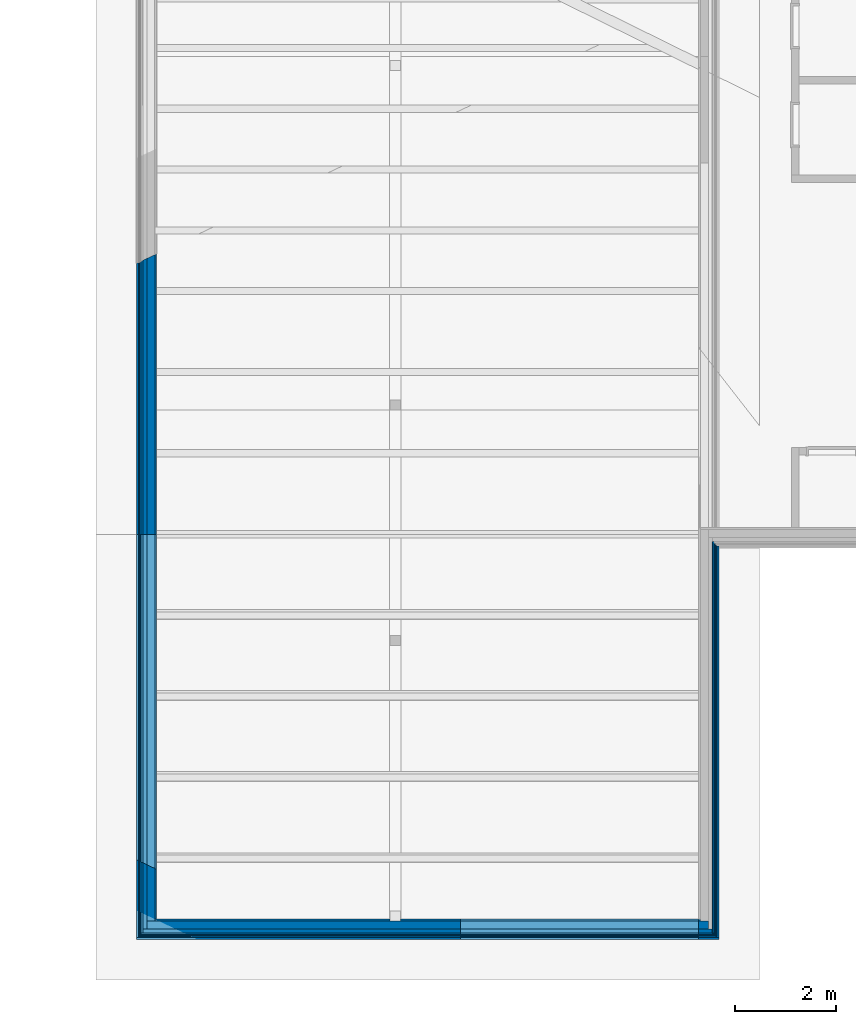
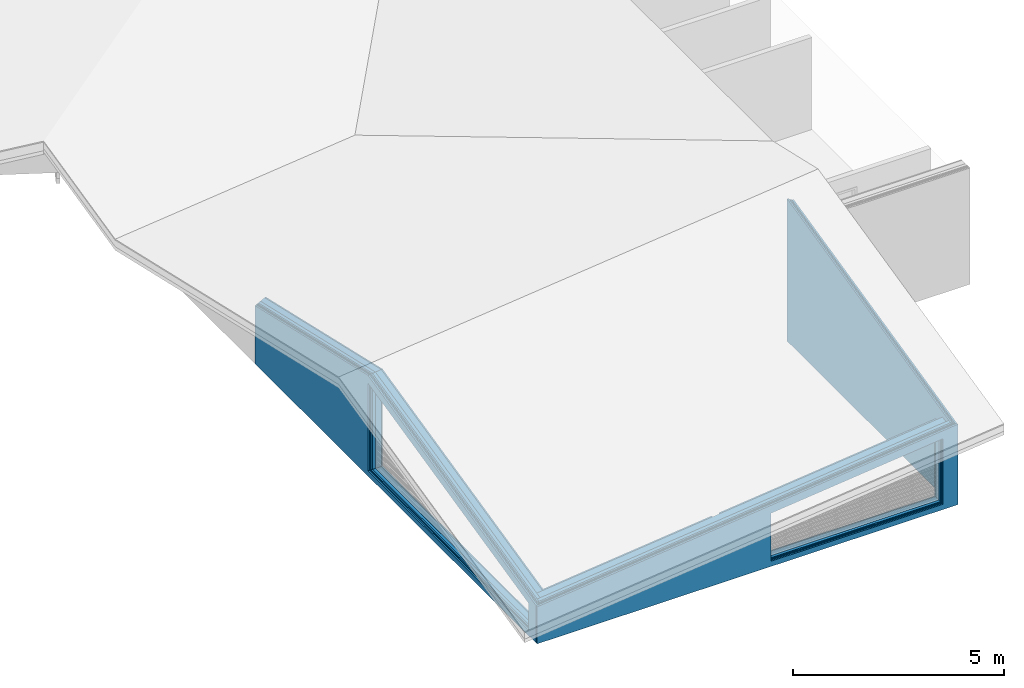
# One storey, part 3 of 14: 18 walls, 14 openings.
"""IFC4 building model written with IfcOpenShell, lengths in metres."""

from ifc_helpers import new_model, entity, si_unit, converted_unit, derived_unit, frame, frame_2d, origin, origin_with_axes, place, context, subcontext, project, spatial, polyline, rectangle, outline, extrude, clip, halfspace, bounded_halfspace, faceted_brep, material, element, save


model = new_model("IFC4")

# Units and contexts
model_context = context("Model", 3, precision=1e-05, world=origin())
body_context = subcontext(model_context, "Body", "Model", "MODEL_VIEW")
ifc_project = project(units=[si_unit("LENGTHUNIT", "METRE"), si_unit("AREAUNIT", "SQUARE_METRE"), si_unit("VOLUMEUNIT", "CUBIC_METRE"), si_unit("MASSUNIT", "GRAM", prefix="KILO"), converted_unit("PLANEANGLEUNIT", "DEGREE", entity("IfcPlaneAngleMeasure", 0.0174532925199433), si_unit("PLANEANGLEUNIT", "RADIAN"), dimensions=[0, 0, 0, 0, 0, 0, 0]), derived_unit("THERMALTRANSMITTANCEUNIT", [(si_unit("POWERUNIT", "WATT"), 1), (si_unit("THERMODYNAMICTEMPERATUREUNIT", "KELVIN"), -1), (si_unit("LENGTHUNIT", "METRE"), -2)]), derived_unit("VOLUMETRICFLOWRATEUNIT", [(si_unit("LENGTHUNIT", "METRE"), 3), (converted_unit("TIMEUNIT", "hour", entity("IfcTimeMeasure", 3600.0), si_unit("TIMEUNIT", "SECOND"), dimensions=[0, 0, 1, 0, 0, 0, 0]), -1), (si_unit("LENGTHUNIT", "METRE"), -1)])], contexts=[model_context])

# Site, building, storey
site_placement = place(None, origin())
site = spatial("IfcSite", under=ifc_project, at=site_placement, Name="Psychiatrie Neubau Wunstorf", CompositionType="ELEMENT")
building_placement = place(site_placement, origin())
building = spatial("IfcBuilding", under=site, at=building_placement, Name="Neubau H1 Sozialzentrum", CompositionType="ELEMENT")
storey_placement = place(building_placement, frame((0.0, 0.0, 4.45)))
storey = spatial("IfcBuildingStorey", under=building, at=storey_placement, Name="H1 Ebene +1", CompositionType="ELEMENT", Elevation=4.45)

# Walls
ifc_material_1 = material(Name="WA-LB")
wall_1_placement = place(storey_placement, frame((-4.89052841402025, 11.7162463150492, -0.15), z_axis=(0.0, 0.0, 1.0), x_axis=(5.40829747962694e-07, -0.999999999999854, 0.0)))
element("IfcWall", 1, at=wall_1_placement, inside=storey, material=ifc_material_1, context=body_context, shape_type="Clipping", body=[
    clip(extrude(rectangle(XDim=7.72992505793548, YDim=0.0360000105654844, at=frame_2d((3.86496252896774, 0.0180000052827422), x_axis=(1.0, 0.0))), origin_with_axes(), (0.0, 0.0, 1.0), 4.11720621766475), halfspace(frame((3.86496253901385, 0.0180000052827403, 3.22630854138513), z_axis=(-0.222900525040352, 0.105340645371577, -0.969132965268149), x_axis=(0.974555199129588, 0.0, -0.224147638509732)), True)),
])
ifc_material_2 = material(Name="WA-KL")
wall_2_placement = place(storey_placement, frame((-4.8545283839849, 11.680246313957, -0.15), z_axis=(0.0, 0.0, 1.0), x_axis=(5.40829748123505e-07, -0.999999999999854, 0.0)))
element("IfcWall", 2, at=wall_2_placement, inside=storey, material=ifc_material_2, context=body_context, shape_type="Clipping", body=[
    clip(extrude(rectangle(XDim=7.72992506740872, YDim=0.02400000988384, at=frame_2d((3.86496253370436, 0.01200000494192), x_axis=(1.0, 0.0))), origin_with_axes(), (0.0, 0.0, 1.0), 4.11153491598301), halfspace(frame((3.86496254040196, 0.0120000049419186, 3.22128941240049), z_axis=(-0.222900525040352, 0.105340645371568, -0.96913296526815), x_axis=(0.974555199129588, 1.05879118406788e-22, -0.224147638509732)), True)),
])
ifc_material_3 = material(Name="WA-TL")
wall_3_placement = place(storey_placement, frame((-4.83052836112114, 11.6562463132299, -0.15), z_axis=(0.0, 0.0, 1.0), x_axis=(5.40829748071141e-07, -0.999999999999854, 0.0)))
element("IfcWall", 3, at=wall_3_placement, inside=storey, material=ifc_material_3, context=body_context, shape_type="Clipping", body=[
    clip(extrude(rectangle(XDim=7.72992507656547, YDim=0.0240000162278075, at=frame_2d((3.86496253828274, 0.0120000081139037), x_axis=(1.0, 0.0))), origin_with_axes(), (0.0, 0.0, 1.0), 4.10862361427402), halfspace(frame((3.86496254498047, 0.0120000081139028, 3.21837810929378), z_axis=(-0.222900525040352, 0.105340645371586, -0.969132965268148), x_axis=(0.974555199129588, 1.05879118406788e-22, -0.224147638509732)), True)),
])
ifc_material_4 = material(Name="WA-HS")
wall_4_placement = place(storey_placement, frame((-4.80652833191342, 11.6322463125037, -0.15), z_axis=(0.0, 0.0, 1.0), x_axis=(5.40829747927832e-07, -0.999999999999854, 0.0)))
element("IfcWall", 4, at=wall_4_placement, inside=storey, material=ifc_material_4, context=body_context, shape_type="Clipping", body=[
    clip(extrude(rectangle(XDim=7.72992509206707, YDim=0.0420000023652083, at=frame_2d((3.86496254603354, 0.0210000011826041), x_axis=(1.0, 0.0))), origin_with_axes(), (0.0, 0.0, 1.0), 4.10766883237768), halfspace(frame((3.86496255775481, 0.0210000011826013, 3.21644506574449), z_axis=(-0.222900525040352, 0.10534064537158, -0.969132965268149), x_axis=(0.974555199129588, 0.0, -0.224147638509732)), True)),
])

# Wall, opening
ifc_material_5 = material(Name="WA-LB")
wall_5_placement = place(storey_placement, frame((-5.1305244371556, 4.26232136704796, -0.15), z_axis=(0.0, 0.0, 1.0), x_axis=(-1.0, 8.44627143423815e-17, 0.0)))
wall_5 = element("IfcWall", 5, at=wall_5_placement, inside=storey, material=ifc_material_5, context=body_context, shape_type="Clipping", body=[
    clip(clip(extrude(rectangle(XDim=5.92400238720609, YDim=0.036000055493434, at=frame_2d((2.96200119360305, 0.0180000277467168), x_axis=(1.0, -6.90643510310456e-17))), origin_with_axes(), (0.0, 0.0, 1.0), 2.37280391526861), bounded_halfspace(frame((2.96200118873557, 0.0180000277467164, 2.04670730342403), z_axis=(-0.105340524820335, -0.222900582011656, -0.969132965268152), x_axis=(0.994144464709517, -6.8659942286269e-17, -0.108059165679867)), True, origin_with_axes(), polyline([(0.0, 0.0), (5.92400238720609, 0.0), (5.92400238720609, 0.0360000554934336), (-1.94699005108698e-08, 0.036000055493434), (0.0, 0.0)]))), bounded_halfspace(frame((8.4460023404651, 0.0180000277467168, 1.45062030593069), z_axis=(-0.105340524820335, -0.22290058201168, -0.969132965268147), x_axis=(0.994144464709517, 8.39681399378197e-17, -0.108059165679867)), True, origin_with_axes(), polyline([(6.1240023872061, 0.0), (10.7680022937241, 0.0), (10.7680022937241, 0.036000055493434), (6.1240023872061, 0.0360000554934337), (6.1240023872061, 0.0)]))),
    clip(clip(extrude(rectangle(XDim=4.64399990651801, YDim=0.036000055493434, at=frame_2d((2.32199995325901, 0.0180000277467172), x_axis=(1.0, 8.44627143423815e-17))), frame((6.1240023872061, 0.0, 0.0), z_axis=(0.0, 0.0, 1.0), x_axis=(1.0, 0.0, 0.0)), (0.0, 0.0, 1.0), 2.37280391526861), bounded_halfspace(frame((2.96200118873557, 0.0180000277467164, 2.04670730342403), z_axis=(-0.105340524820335, -0.222900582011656, -0.969132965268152), x_axis=(0.994144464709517, -6.8659942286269e-17, -0.108059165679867)), True, origin_with_axes(), polyline([(0.0, 0.0), (5.92400238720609, 0.0), (5.92400238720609, 0.0360000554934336), (-1.94699005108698e-08, 0.036000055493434), (0.0, 0.0)]))), bounded_halfspace(frame((8.4460023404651, 0.0180000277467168, 1.45062030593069), z_axis=(-0.105340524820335, -0.22290058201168, -0.969132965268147), x_axis=(0.994144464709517, 8.39681399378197e-17, -0.108059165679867)), True, origin_with_axes(), polyline([(6.1240023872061, 0.0), (10.7680022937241, 0.0), (10.7680022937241, 0.036000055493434), (6.1240023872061, 0.0360000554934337), (6.1240023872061, 0.0)]))),
])
opening_1_placement = place(wall_5_placement, frame((4.7380020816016, 0.036000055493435, 0.15)))
element("IfcOpeningElement", 6, at=opening_1_placement, cuts=wall_5, Name="Fensteröffnung", ObjectType="Opening", context=body_context, shape_type="Brep", body=[
    faceted_brep([(0.0, -0.036000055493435, 0.0), (0.0, 0.0, 0.0), (-4.702002, 0.0, 0.0), (-4.702002, -0.0360000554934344, 0.0), (0.0, 0.0, 1.46939729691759), (0.0, -0.036000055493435, 1.47767730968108), (-4.702002, -0.0360000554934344, 1.98876441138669), (-4.702002, 0.0, 1.9804843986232)], [[[0, 1, 2, 3]], [[4, 5, 6, 7]], [[1, 0, 5, 4]], [[2, 1, 4, 7]], [[3, 2, 7, 6]], [[0, 3, 6, 5]]], orient=[[False], [False], [False], [False], [False], [False]]),
])

ifc_material_6 = material(Name="WA-HD")
wall_6_placement = place(storey_placement, frame((-4.97052438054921, 4.22632131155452, -0.15), z_axis=(0.0, 0.0, 1.0), x_axis=(-1.0, 8.20251177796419e-17, 0.0)))
wall_6 = element("IfcWall", 7, at=wall_6_placement, inside=storey, material=ifc_material_6, context=body_context, shape_type="Clipping", body=[
    clip(extrude(rectangle(XDim=11.088002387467, YDim=0.160000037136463, at=frame_2d((5.54400119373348, 0.0800000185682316), x_axis=(1.0, 0.0))), origin_with_axes(), (0.0, 0.0, 1.0), 2.38191521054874), halfspace(frame((5.54400117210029, 0.0800000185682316, 1.76090646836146), z_axis=(-0.105340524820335, -0.222900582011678, -0.969132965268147), x_axis=(0.994144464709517, 1.23259516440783e-32, -0.108059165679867)), True)),
])
opening_2_placement = place(wall_6_placement, frame((4.89800213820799, 0.160000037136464, 0.15)))
element("IfcOpeningElement", 8, at=opening_2_placement, cuts=wall_6, Name="Fensteröffnung", ObjectType="Opening", context=body_context, shape_type="Brep", body=[
    faceted_brep([(0.0, -0.160000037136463, 0.0), (0.0, 0.0, 0.0), (-4.702002, 0.0, 0.0), (-4.702002, -0.160000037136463, 0.0), (0.0, 0.0, 1.4325972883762), (0.0, -0.160000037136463, 1.46939729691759), (-4.702002, -0.160000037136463, 1.9804843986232), (-4.702002, 0.0, 1.94368439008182)], [[[0, 1, 2, 3]], [[4, 5, 6, 7]], [[1, 0, 5, 4]], [[2, 1, 4, 7]], [[3, 2, 7, 6]], [[0, 3, 6, 5]]], orient=[[False], [False], [False], [False], [False], [False]]),
])

ifc_material_7 = material(Name="WA-DL")
wall_7_placement = place(storey_placement, frame((-4.89052427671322, 4.06632127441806, -0.15), z_axis=(0.0, 0.0, 1.0), x_axis=(-1.0, 8.08583302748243e-17, 0.0)))
wall_7 = element("IfcWall", 9, at=wall_7_placement, inside=storey, material=ifc_material_7, context=body_context, shape_type="Clipping", body=[
    clip(extrude(rectangle(XDim=11.2480025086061, YDim=0.0800000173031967, at=frame_2d((5.62400125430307, 0.0400000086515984), x_axis=(1.0, 0.0))), origin_with_axes(), (0.0, 0.0, 1.0), 2.35381086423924), halfspace(frame((5.62400124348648, 0.0400000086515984, 1.73330646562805), z_axis=(-0.105340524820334, -0.222900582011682, -0.969132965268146), x_axis=(0.994144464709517, 0.0, -0.108059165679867)), True)),
])
opening_3_placement = place(wall_7_placement, frame((4.97800224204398, 0.0800000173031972, 0.15)))
element("IfcOpeningElement", 10, at=opening_3_placement, cuts=wall_7, Name="Fensteröffnung", ObjectType="Opening", context=body_context, shape_type="Brep", body=[
    faceted_brep([(0.0, -0.0800000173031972, 0.0), (0.0, 0.0, 0.0), (-4.702002, 0.0, 0.0), (-4.702002, -0.0800000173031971, 0.0), (0.0, 0.0, 1.41419728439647), (0.0, -0.0800000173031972, 1.4325972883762), (-4.702002, -0.0800000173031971, 1.94368439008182), (-4.702002, 0.0, 1.92528438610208)], [[[0, 1, 2, 3]], [[4, 5, 6, 7]], [[1, 0, 5, 4]], [[2, 1, 4, 7]], [[3, 2, 7, 6]], [[0, 3, 6, 5]]], orient=[[False], [False], [False], [False], [False], [False]]),
])

ifc_material_8 = material(Name="WA-LB")
wall_8_placement = place(storey_placement, frame((-4.85452422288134, 3.98632125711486, -0.15), z_axis=(0.0, 0.0, 1.0), x_axis=(-1.0, 8.03440366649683e-17, 0.0)))
wall_8 = element("IfcWall", 11, at=wall_8_placement, inside=storey, material=ifc_material_8, context=body_context, shape_type="Clipping", body=[
    clip(extrude(rectangle(XDim=11.3200025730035, YDim=0.036000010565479, at=frame_2d((5.66000128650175, 0.0180000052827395), x_axis=(1.0, 0.0))), origin_with_axes(), (0.0, 0.0, 1.0), 2.33932390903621), halfspace(frame((5.66000128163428, 0.0180000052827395, 1.71996646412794), z_axis=(-0.105340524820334, -0.222900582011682, -0.969132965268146), x_axis=(0.994144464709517, 0.0, -0.108059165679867)), True)),
])
opening_4_placement = place(wall_8_placement, frame((5.01400229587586, 0.0360000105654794, 0.15)))
element("IfcOpeningElement", 12, at=opening_4_placement, cuts=wall_8, Name="Fensteröffnung", ObjectType="Opening", context=body_context, shape_type="Brep", body=[
    faceted_brep([(0.0, -0.0360000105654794, 0.0), (0.0, 0.0, 0.0), (-4.702002, 0.0, 0.0), (-4.702002, -0.0360000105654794, 0.0), (0.0, 0.0, 1.40591728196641), (0.0, -0.0360000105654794, 1.41419728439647), (-4.702002, -0.0360000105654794, 1.92528438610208), (-4.702002, 0.0, 1.91700438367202)], [[[0, 1, 2, 3]], [[4, 5, 6, 7]], [[1, 0, 5, 4]], [[2, 1, 4, 7]], [[3, 2, 7, 6]], [[0, 3, 6, 5]]], orient=[[False], [False], [False], [False], [False], [False]]),
])

ifc_material_9 = material(Name="WA-KL")
wall_9_placement = place(storey_placement, frame((-4.83052419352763, 3.95032124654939, -0.15), z_axis=(0.0, 0.0, 1.0), x_axis=(-1.0, 8.00047935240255e-17, 0.0)))
wall_9 = element("IfcWall", 13, at=wall_9_placement, inside=storey, material=ifc_material_9, context=body_context, shape_type="Clipping", body=[
    clip(extrude(rectangle(XDim=11.3680026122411, YDim=0.0240000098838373, at=frame_2d((5.68400130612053, 0.0120000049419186), x_axis=(1.0, 0.0))), origin_with_axes(), (0.0, 0.0, 1.0), 2.33365260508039), halfspace(frame((5.68400130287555, 0.0120000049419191, 1.71306646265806), z_axis=(-0.105340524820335, -0.22290058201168, -0.969132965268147), x_axis=(0.994144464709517, 0.0, -0.108059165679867)), True)),
])
opening_5_placement = place(wall_9_placement, frame((5.03800232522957, 0.0240000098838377, 0.15)))
element("IfcOpeningElement", 14, at=opening_5_placement, cuts=wall_9, Name="Fensteröffnung", ObjectType="Opening", context=body_context, shape_type="Brep", body=[
    faceted_brep([(0.0, -0.0240000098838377, 0.0), (0.0, 0.0, 0.0), (-4.702002, 0.0, 0.0), (-4.702002, -0.0240000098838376, 0.0), (0.0, 0.0, 1.40039727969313), (0.0, -0.0240000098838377, 1.40591728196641), (-4.702002, -0.0240000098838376, 1.91700438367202), (-4.702002, 0.0, 1.91148438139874)], [[[0, 1, 2, 3]], [[4, 5, 6, 7]], [[1, 0, 5, 4]], [[2, 1, 4, 7]], [[3, 2, 7, 6]], [[0, 3, 6, 5]]], orient=[[False], [False], [False], [False], [False], [False]]),
])

ifc_material_10 = material(Name="WA-TL")
wall_10_placement = place(storey_placement, frame((-4.8065241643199, 3.92632123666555, -0.15), z_axis=(0.0, 0.0, 1.0), x_axis=(-1.0, 7.9668403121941e-17, 0.0)))
wall_10 = element("IfcWall", 15, at=wall_10_placement, inside=storey, material=ifc_material_10, context=body_context, shape_type="Clipping", body=[
    clip(extrude(rectangle(XDim=11.4160026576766, YDim=0.0240000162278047, at=frame_2d((5.70800132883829, 0.0120000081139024), x_axis=(1.0, 0.0))), origin_with_axes(), (0.0, 0.0, 1.0), 2.33074130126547), halfspace(frame((5.70800132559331, 0.0120000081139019, 1.70754646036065), z_axis=(-0.105340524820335, -0.222900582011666, -0.96913296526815), x_axis=(0.994144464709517, 0.0, -0.108059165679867)), True)),
])
opening_6_placement = place(wall_10_placement, frame((5.0620023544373, 0.0240000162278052, 0.15)))
element("IfcOpeningElement", 16, at=opening_6_placement, cuts=wall_10, Name="Fensteröffnung", ObjectType="Opening", context=body_context, shape_type="Brep", body=[
    faceted_brep([(0.0, -0.0240000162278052, 0.0), (0.0, 0.0, 0.0), (-4.702002, 0.0, 0.0), (-4.702002, -0.0240000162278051, 0.0), (0.0, 0.0, 1.39487727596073), (0.0, -0.0240000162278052, 1.40039727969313), (-4.702002, -0.0240000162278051, 1.91148438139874), (-4.702002, 0.0, 1.90596437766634)], [[[0, 1, 2, 3]], [[4, 5, 6, 7]], [[1, 0, 5, 4]], [[2, 1, 4, 7]], [[3, 2, 7, 6]], [[0, 3, 6, 5]]], orient=[[False], [False], [False], [False], [False], [False]]),
])

ifc_material_11 = material(Name="WA-HS")
wall_11_placement = place(storey_placement, frame((-4.76452414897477, 3.90232122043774, -0.15), z_axis=(0.0, 0.0, 1.0), x_axis=(-1.0, 7.91002339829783e-17, 0.0)))
wall_11 = element("IfcWall", 17, at=wall_11_placement, inside=storey, material=ifc_material_11, context=body_context, shape_type="Clipping", body=[
    clip(extrude(rectangle(XDim=11.4980026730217, YDim=0.0420000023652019, at=frame_2d((5.74900133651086, 0.021000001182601), x_axis=(1.0, 0.0))), origin_with_axes(), (0.0, 0.0, 1.0), 2.32978651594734), halfspace(frame((5.74900133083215, 0.021000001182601, 1.70006515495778), z_axis=(-0.105340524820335, -0.222900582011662, -0.969132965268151), x_axis=(0.994144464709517, 0.0, -0.108059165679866)), True)),
])
opening_7_placement = place(wall_11_placement, frame((5.10400236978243, 0.0420000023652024, 0.15)))
element("IfcOpeningElement", 18, at=opening_7_placement, cuts=wall_11, Name="Fensteröffnung", ObjectType="Opening", context=body_context, shape_type="Brep", body=[
    faceted_brep([(0.0, -0.0420000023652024, 0.0), (0.0, 0.0, 0.0), (-4.702002, 0.0, 0.0), (-4.702002, -0.0420000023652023, 0.0), (0.0, 0.0, 1.38521727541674), (0.0, -0.0420000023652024, 1.39487727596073), (-4.702002, -0.0420000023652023, 1.90596437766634), (-4.702002, 0.0, 1.89630437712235)], [[[0, 1, 2, 3]], [[4, 5, 6, 7]], [[1, 0, 5, 4]], [[2, 1, 4, 7]], [[3, 2, 7, 6]], [[0, 3, 6, 5]]], orient=[[False], [False], [False], [False], [False], [False]]),
])

ifc_material_12 = material(Name="WA-LB")
wall_12_placement = place(storey_placement, frame((-15.8625266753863, 4.26232136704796, -0.15), z_axis=(0.0, 0.0, 1.0), x_axis=(-4.1542695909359e-16, 1.0, 0.0)))
wall_12 = element("IfcWall", 19, at=wall_12_placement, inside=storey, material=ifc_material_12, context=body_context, shape_type="Clipping", body=[
    clip(clip(extrude(outline(polyline([(0.0, -0.036000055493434), (13.1358066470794, -0.036000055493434), (13.1187933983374, 0.0), (0.0, 0.0), (0.0, -0.036000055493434)])), frame((0.0, 0.036000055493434, 0.0), z_axis=(0.0, 0.0, 1.0), x_axis=(1.0, 0.0, 0.0)), (0.0, 0.0, 1.0), 2.95382209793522), bounded_halfspace(frame((3.79900000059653, 0.0180000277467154, 2.07809557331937), z_axis=(0.222900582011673, -0.105340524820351, -0.969132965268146), x_axis=(0.9745551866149, 6.17677606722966e-17, 0.224147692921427)), True, origin_with_axes(), polyline([(0.0, 0.0), (7.59800000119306, 0.0), (7.59800000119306, 0.0360000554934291), (0.0, 0.036000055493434), (0.0, 0.0)]))), bounded_halfspace(frame((10.3626500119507, 0.0180000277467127, 2.3159960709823), z_axis=(-0.222900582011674, -0.105340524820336, -0.969132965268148), x_axis=(0.9745551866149, -8.47468096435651e-17, -0.224147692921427)), True, origin_with_axes(), polyline([(7.59800000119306, 0.0), (13.1358066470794, 0.0), (13.1187933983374, 0.0360000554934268), (7.59800000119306, 0.0360000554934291), (7.59800000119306, 0.0)]))),
])
opening_8_placement = place(wall_12_placement, frame((0.000727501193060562, 0.036000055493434, 0.15)))
element("IfcOpeningElement", 20, at=opening_8_placement, cuts=wall_12, Name="Fensteröffnung", ObjectType="Opening", context=body_context, shape_type="Brep", body=[
    faceted_brep([(0.0, 0.0, 0.0), (0.0, -0.036000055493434, 0.0), (7.5972725, -0.0360000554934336, 0.0), (7.5972725, 0.0, 0.0), (0.0, -0.036000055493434, 0.826322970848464), (0.0, 0.0, 0.822409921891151), (7.5972725, 0.0, 2.56978259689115), (7.5972725, -0.0360000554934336, 2.57369564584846)], [[[0, 1, 2, 3]], [[4, 5, 6, 7]], [[1, 0, 5, 4]], [[2, 1, 4, 7]], [[3, 2, 7, 6]], [[0, 3, 6, 5]]], orient=[[False], [False], [False], [False], [False], [False]]),
])

ifc_material_13 = material(Name="WA-HD")
wall_13_placement = place(storey_placement, frame((-15.8985267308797, 4.22632131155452, -0.15), z_axis=(0.0, 0.0, 1.0), x_axis=(1.38275785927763e-16, 1.0, 0.0)))
wall_13 = element("IfcWall", 21, at=wall_13_placement, inside=storey, material=ifc_material_13, context=body_context, shape_type="Clipping", body=[
    clip(clip(extrude(outline(polyline([(0.0, -0.160000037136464), (13.1547934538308, -0.160000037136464), (13.0791791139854, 0.0), (0.0, 0.0), (0.0, -0.160000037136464)])), frame((0.0, 0.160000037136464, 0.0), z_axis=(0.0, 0.0, 1.0), x_axis=(1.0, 0.0, 0.0)), (0.0, 0.0, 1.0), 2.94990904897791), bounded_halfspace(frame((3.81700002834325, 0.0800000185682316, 2.06330338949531), z_axis=(0.222900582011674, -0.105340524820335, -0.969132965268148), x_axis=(0.9745551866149, -9.74545025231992e-17, 0.224147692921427)), True, origin_with_axes(), polyline([(0.0, 0.0), (7.63400005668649, 0.0), (7.63400005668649, 0.160000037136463), (0.0, 0.160000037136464), (0.0, 0.0)]))), bounded_halfspace(frame((10.3754931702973, 0.0800000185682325, 2.31066997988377), z_axis=(-0.222900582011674, -0.105340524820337, -0.969132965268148), x_axis=(0.9745551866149, 1.34757384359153e-16, -0.224147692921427)), True, origin_with_axes(), polyline([(7.63400005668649, 0.0), (13.1547934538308, 0.0), (13.0791791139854, 0.160000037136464), (7.63400005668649, 0.160000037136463), (7.63400005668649, 0.0)]))),
])
opening_9_placement = place(wall_13_placement, frame((0.0367275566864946, 0.160000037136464, 0.15)))
element("IfcOpeningElement", 22, at=opening_9_placement, cuts=wall_13, Name="Fensteröffnung", ObjectType="Opening", context=body_context, shape_type="Brep", body=[
    faceted_brep([(0.0, 0.0, 0.0), (0.0, -0.160000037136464, 0.0), (7.5972725, -0.160000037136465, 0.0), (7.5972725, 0.0, 0.0), (0.0, -0.160000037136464, 0.822409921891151), (0.0, 0.0, 0.805018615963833), (7.5972725, 0.0, 2.55239129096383), (7.5972725, -0.160000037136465, 2.56978259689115)], [[[0, 1, 2, 3]], [[4, 5, 6, 7]], [[1, 0, 5, 4]], [[2, 1, 4, 7]], [[3, 2, 7, 6]], [[0, 3, 6, 5]]], orient=[[False], [False], [False], [False], [False], [False]]),
])

ifc_material_14 = material(Name="WA-DL")
wall_14_placement = place(storey_placement, frame((-16.0585267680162, 4.06632127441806, -0.15), z_axis=(0.0, 0.0, 1.0), x_axis=(1.37394424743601e-16, 1.0, 0.0)))
wall_14 = element("IfcWall", 23, at=wall_14_placement, inside=storey, material=ifc_material_14, context=body_context, shape_type="Clipping", body=[
    clip(clip(extrude(outline(polyline([(0.0, -0.0800000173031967), (13.2391791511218, -0.0800000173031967), (13.2013719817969, 0.0), (0.0, 0.0), (0.0, -0.0800000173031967)])), frame((0.0, 0.0800000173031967, 0.0), z_axis=(0.0, 0.0, 1.0), x_axis=(1.0, 0.0, 0.0)), (0.0, 0.0, 1.0), 2.93251774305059), bounded_halfspace(frame((3.89700004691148, 0.040000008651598, 2.03185990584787), z_axis=(0.222900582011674, -0.10534052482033, -0.969132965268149), x_axis=(0.9745551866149, -9.35464489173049e-17, 0.224147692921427)), True, origin_with_axes(), polyline([(0.0, 0.0), (7.79400009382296, 0.0), (7.79400009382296, 0.080000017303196), (0.0, 0.0800000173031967), (0.0, 0.0)]))), bounded_halfspace(frame((10.5071378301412, 0.0400000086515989, 2.30414823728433), z_axis=(-0.222900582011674, -0.105340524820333, -0.969132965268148), x_axis=(0.9745551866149, 1.33898449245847e-16, -0.224147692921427)), True, origin_with_axes(), polyline([(7.79400009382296, 0.0), (13.2391791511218, 0.0), (13.2013719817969, 0.0800000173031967), (7.79400009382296, 0.080000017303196), (7.79400009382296, 0.0)]))),
])
opening_10_placement = place(wall_14_placement, frame((0.196727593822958, 0.0800000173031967, 0.15)))
element("IfcOpeningElement", 24, at=opening_10_placement, cuts=wall_14, Name="Fensteröffnung", ObjectType="Opening", context=body_context, shape_type="Brep", body=[
    faceted_brep([(0.0, 0.0, 0.0), (0.0, -0.0800000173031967, 0.0), (7.5972725, -0.0800000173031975, 0.0), (7.5972725, 0.0, 0.0), (0.0, -0.0800000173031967, 0.805018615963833), (0.0, 0.0, 0.796322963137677), (7.5972725, 0.0, 2.54369563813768), (7.5972725, -0.0800000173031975, 2.55239129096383)], [[[0, 1, 2, 3]], [[4, 5, 6, 7]], [[1, 0, 5, 4]], [[2, 1, 4, 7]], [[3, 2, 7, 6]], [[0, 3, 6, 5]]], orient=[[False], [False], [False], [False], [False], [False]]),
])

ifc_material_15 = material(Name="WA-LB")
wall_15_placement = place(storey_placement, frame((-16.1385267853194, 3.98632125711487, -0.15), z_axis=(0.0, 0.0, 1.0), x_axis=(1.36957944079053e-16, 1.0, 0.0)))
wall_15 = element("IfcWall", 25, at=wall_15_placement, inside=storey, material=ifc_material_15, context=body_context, shape_type="Clipping", body=[
    clip(clip(extrude(outline(polyline([(0.0, -0.0360000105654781), (13.2813719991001, -0.0360000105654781), (13.2643587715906, 0.0), (0.0, 0.0), (0.0, -0.0360000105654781)])), frame((0.0, 0.0360000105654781, 0.0), z_axis=(0.0, 0.0, 1.0), x_axis=(1.0, 0.0, 0.0)), (0.0, 0.0, 1.0), 2.92382209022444), bounded_halfspace(frame((3.93700005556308, 0.0180000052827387, 2.01635555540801), z_axis=(0.222900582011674, -0.105340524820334, -0.969132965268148), x_axis=(0.9745551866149, -3.16795031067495e-16, 0.224147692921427)), True, origin_with_axes(), polyline([(0.0, 0.0), (7.87400011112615, 0.0), (7.87400011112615, 0.0360000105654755), (0.0, 0.0360000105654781), (0.0, 0.0)]))), bounded_halfspace(frame((10.5734327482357, 0.0180000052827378, 2.30099606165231), z_axis=(-0.222900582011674, -0.105340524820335, -0.969132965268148), x_axis=(0.9745551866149, 1.33473074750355e-16, -0.224147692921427)), True, origin_with_axes(), polyline([(7.87400011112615, 0.0), (13.2813719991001, 0.0), (13.2643587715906, 0.0360000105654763), (7.87400011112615, 0.0360000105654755), (7.87400011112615, 0.0)]))),
])
opening_11_placement = place(wall_15_placement, frame((0.276727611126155, 0.0360000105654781, 0.15)))
element("IfcOpeningElement", 26, at=opening_11_placement, cuts=wall_15, Name="Fensteröffnung", ObjectType="Opening", context=body_context, shape_type="Brep", body=[
    faceted_brep([(0.0, 0.0, 0.0), (0.0, -0.0360000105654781, 0.0), (7.5972725, -0.0360000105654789, 0.0), (7.5972725, 0.0, 0.0), (0.0, -0.0360000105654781, 0.796322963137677), (0.0, 0.0, 0.792409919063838), (7.5972725, 0.0, 2.53978259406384), (7.5972725, -0.0360000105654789, 2.54369563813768)], [[[0, 1, 2, 3]], [[4, 5, 6, 7]], [[1, 0, 5, 4]], [[2, 1, 4, 7]], [[3, 2, 7, 6]], [[0, 3, 6, 5]]], orient=[[False], [False], [False], [False], [False], [False]]),
])

ifc_material_16 = material(Name="WA-KL")
wall_16_placement = place(storey_placement, frame((-16.1745267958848, 3.95032124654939, -0.15), z_axis=(0.0, 0.0, 1.0), x_axis=(1.36762431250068e-16, 1.0, 0.0)))
wall_16 = element("IfcWall", 27, at=wall_16_placement, inside=storey, material=ifc_material_16, context=body_context, shape_type="Clipping", body=[
    clip(clip(extrude(outline(polyline([(0.0, -0.0240000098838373), (13.300358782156, -0.0240000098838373), (13.2890166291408, 0.0), (0.0, 0.0), (0.0, -0.0240000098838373)])), frame((0.0, 0.0240000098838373, 0.0), z_axis=(0.0, 0.0, 1.0), x_axis=(1.0, 0.0, 0.0)), (0.0, 0.0, 1.0), 2.9199090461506), bounded_halfspace(frame((3.95500006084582, 0.0120000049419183, 2.00895468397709), z_axis=(0.222900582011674, -0.105340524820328, -0.969132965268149), x_axis=(0.9745551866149, -9.0826885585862e-17, 0.224147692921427)), True, origin_with_axes(), polyline([(0.0, 0.0), (7.91000012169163, 0.0), (7.91000012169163, 0.0240000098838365), (0.0, 0.0240000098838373), (0.0, 0.0)]))), bounded_halfspace(frame((10.60234391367, 0.0120000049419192, 2.2993656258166), z_axis=(-0.222900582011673, -0.105340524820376, -0.969132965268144), x_axis=(0.9745551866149, 1.33282536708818e-16, -0.224147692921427)), True, origin_with_axes(), polyline([(7.91000012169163, 0.0), (13.300358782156, 0.0), (13.2890166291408, 0.0240000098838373), (7.91000012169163, 0.0240000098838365), (7.91000012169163, 0.0)]))),
])
opening_12_placement = place(wall_16_placement, frame((0.312727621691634, 0.0240000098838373, 0.15)))
element("IfcOpeningElement", 28, at=opening_12_placement, cuts=wall_16, Name="Fensteröffnung", ObjectType="Opening", context=body_context, shape_type="Brep", body=[
    faceted_brep([(0.0, 0.0, 0.0), (0.0, -0.0240000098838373, 0.0), (7.5972725, -0.024000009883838, 0.0), (7.5972725, 0.0, 0.0), (0.0, -0.0240000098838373, 0.792409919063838), (0.0, 0.0, 0.789801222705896), (7.5972725, 0.0, 2.53717389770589), (7.5972725, -0.024000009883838, 2.53978259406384)], [[[0, 1, 2, 3]], [[4, 5, 6, 7]], [[1, 0, 5, 4]], [[2, 1, 4, 7]], [[3, 2, 7, 6]], [[0, 3, 6, 5]]], orient=[[False], [False], [False], [False], [False], [False]]),
])

ifc_material_17 = material(Name="WA-TL")
wall_17_placement = place(storey_placement, frame((-16.1985268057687, 3.92632123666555, -0.15), z_axis=(0.0, 0.0, 1.0), x_axis=(1.36632399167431e-16, 1.0, 0.0)))
wall_17 = element("IfcWall", 29, at=wall_17_placement, inside=storey, material=ifc_material_17, context=body_context, shape_type="Clipping", body=[
    clip(clip(extrude(outline(polyline([(0.0, -0.0240000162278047), (13.3130166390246, -0.0240000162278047), (13.3016744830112, 0.0), (0.0, 0.0), (0.0, -0.0240000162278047)])), frame((0.0, 0.0240000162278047, 0.0), z_axis=(0.0, 0.0, 1.0), x_axis=(1.0, 0.0, 0.0)), (0.0, 0.0, 1.0), 2.91730034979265), bounded_halfspace(frame((3.96700006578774, 0.0120000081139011, 2.00358598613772), z_axis=(0.222900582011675, -0.105340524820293, -0.969132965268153), x_axis=(0.9745551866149, -3.13707188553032e-16, 0.224147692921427)), True, origin_with_axes(), polyline([(0.0, 0.0), (7.93400013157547, 0.0), (7.93400013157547, 0.0240000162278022), (0.0, 0.0240000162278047), (0.0, 0.0)]))), bounded_halfspace(frame((10.6206728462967, 0.0120000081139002, 2.29806127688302), z_axis=(-0.222900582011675, -0.105340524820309, -0.969132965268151), x_axis=(0.9745551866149, 1.33155813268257e-16, -0.224147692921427)), True, origin_with_axes(), polyline([(7.93400013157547, 0.0), (13.3130166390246, 0.0), (13.3016744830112, 0.0240000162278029), (7.93400013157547, 0.0240000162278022), (7.93400013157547, 0.0)]))),
])
opening_13_placement = place(wall_17_placement, frame((0.336727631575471, 0.0240000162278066, 0.15)))
element("IfcOpeningElement", 30, at=opening_13_placement, cuts=wall_17, Name="Fensteröffnung", ObjectType="Opening", context=body_context, shape_type="Brep", body=[
    faceted_brep([(0.0, 0.0, 0.0), (0.0, -0.0240000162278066, 0.0), (7.5972725, -0.0240000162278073, 0.0), (7.5972725, 0.0, 0.0), (0.0, -0.0240000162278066, 0.789801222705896), (0.0, 0.0, 0.787192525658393), (7.5972725, 0.0, 2.53456520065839), (7.5972725, -0.0240000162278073, 2.53717389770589)], [[[0, 1, 2, 3]], [[4, 5, 6, 7]], [[1, 0, 5, 4]], [[2, 1, 4, 7]], [[3, 2, 7, 6]], [[0, 3, 6, 5]]], orient=[[False], [False], [False], [False], [False], [False]]),
])

ifc_material_18 = material(Name="WA-HS")
wall_18_placement = place(storey_placement, frame((-16.2225268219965, 3.90232122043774, -0.15), z_axis=(0.0, 0.0, 1.0), x_axis=(1.36502614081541e-16, 1.0, 0.0)))
wall_18 = element("IfcWall", 31, at=wall_18_placement, inside=storey, material=ifc_material_18, context=body_context, shape_type="Clipping", body=[
    clip(clip(extrude(outline(polyline([(0.0, -0.04), (13.325674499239, -0.04), (13.3067709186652, 0.0), (0.0, 0.0), (0.0, -0.04)])), frame((0.0, 0.04, 0.0), z_axis=(0.0, 0.0, 1.0), x_axis=(1.0, 0.0, 0.0)), (0.0, 0.0, 1.0), 2.91469165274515), bounded_halfspace(frame((3.97900007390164, 0.0200000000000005, 1.99734772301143), z_axis=(0.222900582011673, -0.10534052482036, -0.969132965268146), x_axis=(0.9745551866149, -8.97283378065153e-17, 0.224147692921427)), True, origin_with_axes(), polyline([(0.0, 0.0), (7.95800014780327, 0.0), (7.95800014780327, 0.0399999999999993), (0.0, 0.04), (0.0, 0.0)]))), bounded_halfspace(frame((10.6371114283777, 0.0199999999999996, 2.29632214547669), z_axis=(-0.222900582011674, -0.10534052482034, -0.969132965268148), x_axis=(0.9745551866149, 1.33029330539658e-16, -0.224147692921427)), True, origin_with_axes(), polyline([(7.95800014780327, 0.0), (13.325674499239, 0.0), (13.3067709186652, 0.04), (7.95800014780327, 0.0399999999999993), (7.95800014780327, 0.0)]))),
])
opening_14_placement = place(wall_18_placement, frame((0.360727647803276, 0.0399999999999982, 0.15)))
element("IfcOpeningElement", 32, at=opening_14_placement, cuts=wall_18, Name="Fensteröffnung", ObjectType="Opening", context=body_context, shape_type="Brep", body=[
    faceted_brep([(0.0, 0.0, 0.0), (0.0, -0.0399999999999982, 0.0), (7.5972725, -0.039999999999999, 0.0), (7.5972725, 0.0, 0.0), (0.0, -0.0399999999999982, 0.787192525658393), (0.0, 0.0, 0.782844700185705), (7.5972725, 0.0, 2.5302173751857), (7.5972725, -0.039999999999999, 2.53456520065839)], [[[0, 1, 2, 3]], [[4, 5, 6, 7]], [[1, 0, 5, 4]], [[2, 1, 4, 7]], [[3, 2, 7, 6]], [[0, 3, 6, 5]]], orient=[[False], [False], [False], [False], [False], [False]]),
])

save(model, "model.ifc")
